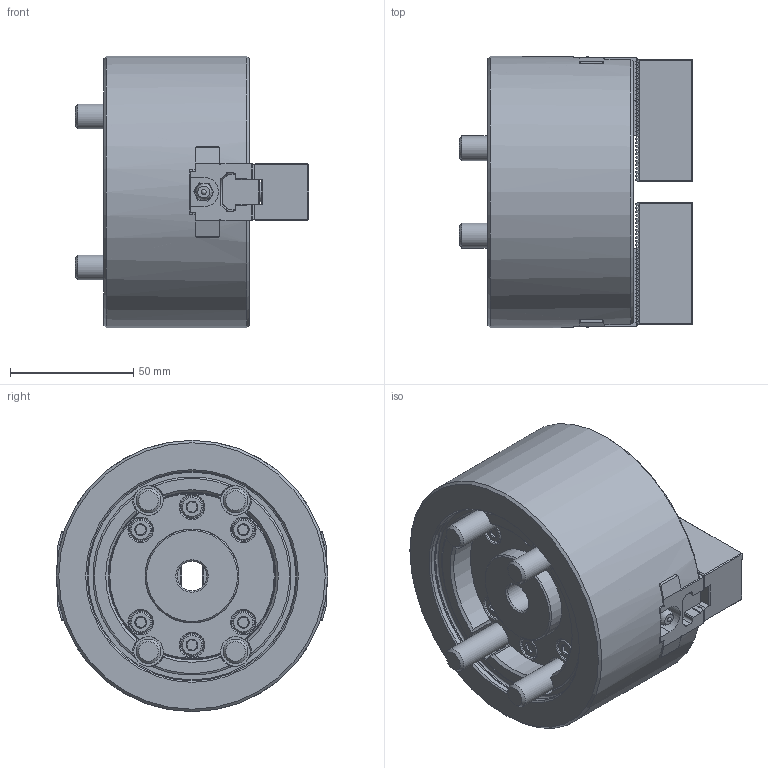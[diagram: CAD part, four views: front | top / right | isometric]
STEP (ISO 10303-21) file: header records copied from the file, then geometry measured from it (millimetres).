
FILE_DESCRIPTION (( 'STEP AP214' ), '1' );
FILE_NAME ('DT1_BT204_OUTSIDE_VIEW_UC.STEP', '2024-05-08T23:23:59', ( '' ), ( '' ), 'SwSTEP 2.0', 'SolidWorks 2022', '' );
FILE_SCHEMA (( 'AUTOMOTIVE_DESIGN' ));
Length unit declared in the file: millimetre
Products named in the file (9): DT1_BT204_M4x8^DT1-BT204_ﾃﾞﾌｫﾙﾄ; DT1_BT204_TNUT^DT1-BT204_ﾃﾞﾌｫﾙﾄ; DT1_BT204_OUTSIDE_VIEW_UC; DT1_BT204_COVER^DT1-BT204_ﾃﾞﾌｫﾙﾄ; DT1_BT204_SOFTJAW^DT1-BT204_ﾃﾞﾌｫﾙﾄ; DT1_BT204_BASE^DT1-BT204_ﾃﾞﾌｫﾙﾄ; DT1_BT204_M10x60^DT1-BT204_ﾃﾞﾌｫﾙﾄ; DT1_BT204_M8x20^DT1-BT204_ﾃﾞﾌｫﾙﾄ; DT1_BT204_DRAWNUT^DT1-BT204_ﾃﾞﾌｫﾙﾄ
Assembly tree (19 placements, depth 2):
  DT1_BT204_OUTSIDE_VIEW_UC
    DT1_BT204_SOFTJAW^DT1-BT204_ﾃﾞﾌｫﾙﾄ  x2
    DT1_BT204_TNUT^DT1-BT204_ﾃﾞﾌｫﾙﾄ  x2
    DT1_BT204_DRAWNUT^DT1-BT204_ﾃﾞﾌｫﾙﾄ
    DT1_BT204_COVER^DT1-BT204_ﾃﾞﾌｫﾙﾄ
    DT1_BT204_BASE^DT1-BT204_ﾃﾞﾌｫﾙﾄ
    DT1_BT204_M4x8^DT1-BT204_ﾃﾞﾌｫﾙﾄ  x4
    DT1_BT204_M8x20^DT1-BT204_ﾃﾞﾌｫﾙﾄ  x4
    DT1_BT204_M10x60^DT1-BT204_ﾃﾞﾌｫﾙﾄ  x4
Bounding box: 94.5 x 110 x 110 mm (x, y, z)
Volume: 523831.3 mm3; surface area: 113508.6 mm2
Topology: 19 solids, 27 shells, 2309 faces, 6348 edges, 4177 vertices
Faces by surface type: plane 1648, cylinder 403, cone 131, bspline 108, torus 15, sphere 4
Full cylindrical faces by diameter (mm): 3.3 x4, 4 x4, 4.5 x4, 6.8 x4, 7.5 x4, 8 x4, 8.5 x8, 8.72 x6, 9.5 x6, 10 x4, 12 x5, 13.27 x4, 13.5 x4, 16.27 x4, 17 x4, 26 x1, 29 x2, 32.5 x1, 35.8 x1, 38 x2, 85 x1, 85.8 x1, 110 x1
Entity records: 61949 total; most frequent: CARTESIAN_POINT 16593, ORIENTED_EDGE 9872, DIRECTION 8255, EDGE_CURVE 4936, VECTOR 3719, LINE 3719, VERTEX_POINT 3314, AXIS2_PLACEMENT_3D 2268
